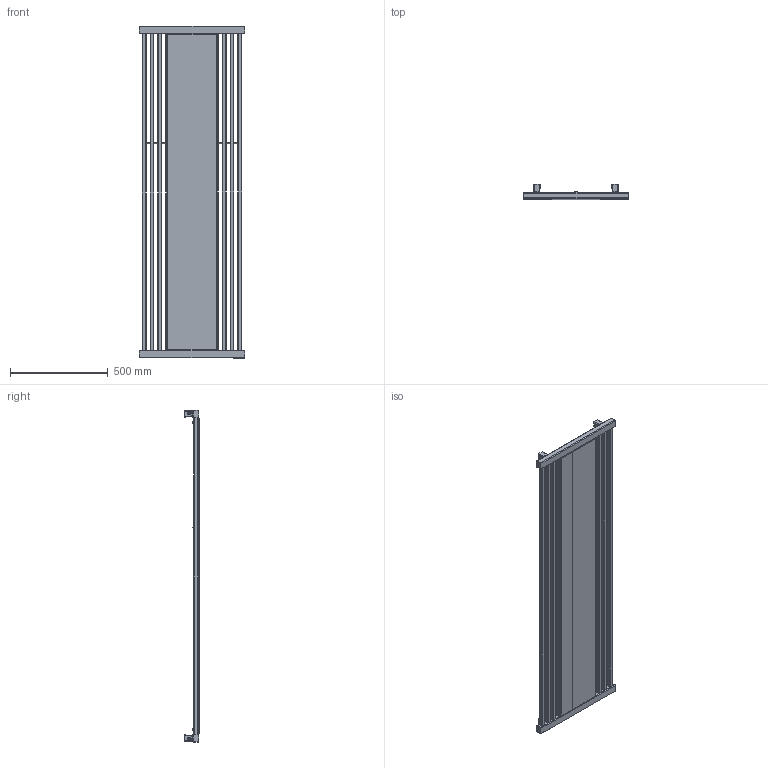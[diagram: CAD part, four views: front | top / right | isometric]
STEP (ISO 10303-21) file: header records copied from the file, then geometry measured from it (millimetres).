
FILE_DESCRIPTION((''),'2;1');
FILE_NAME('Z:\R\G\P\RGPH04 - Grzejnik Intra\Work\Inventor\Marketing\STEP\IN 17-54-ZX.stp','2012-07-25T14:22:12',('PioRo'),(''),'Autodesk Inventor 2012','Autodesk Inventor 2012','');
FILE_SCHEMA(('CONFIG_CONTROL_DESIGN'));
Length unit declared in the file: millimetre
Products named in the file (1): Część3
Bounding box: 540 x 74 x 1700 mm (x, y, z)
Volume: 10082921.9 mm3; surface area: 2606174.5 mm2
Topology: 6 solids, 32 shells, 610 faces, 1435 edges, 892 vertices
Faces by surface type: plane 294, cylinder 204, bspline 72, cone 28, torus 12
Full cylindrical faces by diameter (mm): 5 x1, 6.912 x2, 8 x4, 9.5 x2, 10 x4, 11 x4, 11.1 x2, 12 x2, 13 x2, 18.631 x3
Entity records: 20553 total; most frequent: CARTESIAN_POINT 6407, ORIENTED_EDGE 2736, DIRECTION 2716, EDGE_CURVE 1368, AXIS2_PLACEMENT_3D 977, VERTEX_POINT 880, VECTOR 762, LINE 762
